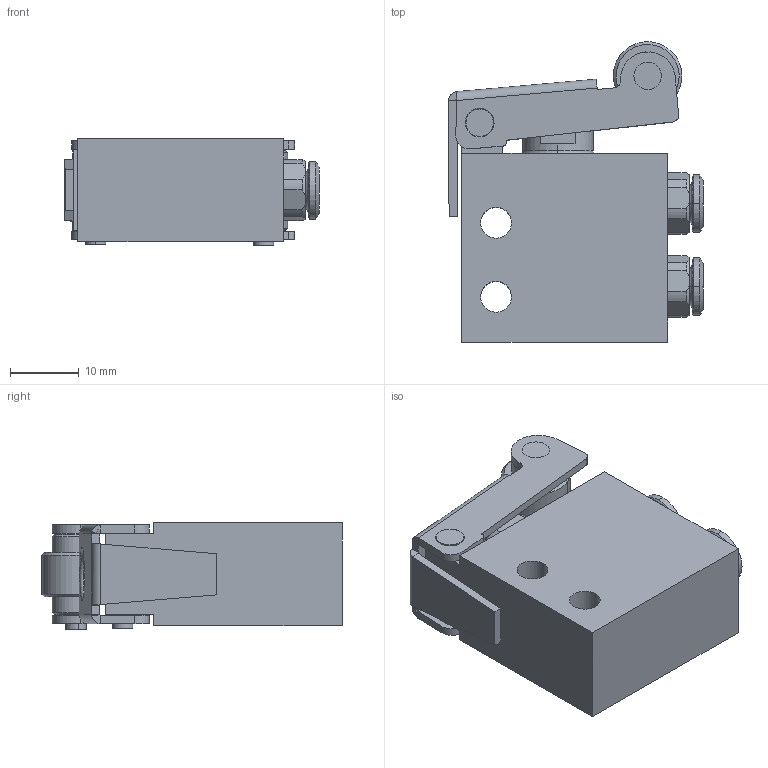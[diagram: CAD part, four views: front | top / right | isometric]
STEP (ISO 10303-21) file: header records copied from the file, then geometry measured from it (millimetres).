
FILE_DESCRIPTION (( 'STEP AP214' ), '1' );
FILE_NAME ('08_196_4.STEP', '2016-08-01T06:28:58', ( '' ), ( '' ), 'SwSTEP 2.0', 'SolidWorks 2016', '' );
FILE_SCHEMA (( 'AUTOMOTIVE_DESIGN' ));
Length unit declared in the file: millimetre
Products named in the file (1): 08_196_4
Bounding box: 37.1 x 43.8 x 15.5 mm (x, y, z)
Volume: 15252.9 mm3; surface area: 8515.7 mm2
Topology: 6 solids, 6 shells, 325 faces, 769 edges, 471 vertices
Faces by surface type: plane 108, cylinder 93, cone 78, torus 32, bspline 12, sphere 2
Entity records: 10289 total; most frequent: CARTESIAN_POINT 2206, DIRECTION 1703, ORIENTED_EDGE 1526, EDGE_CURVE 763, AXIS2_PLACEMENT_3D 684, VERTEX_POINT 471, CIRCLE 370, EDGE_LOOP 354
